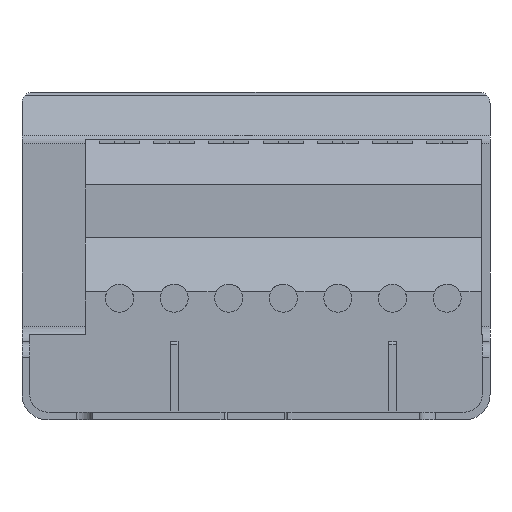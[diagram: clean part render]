
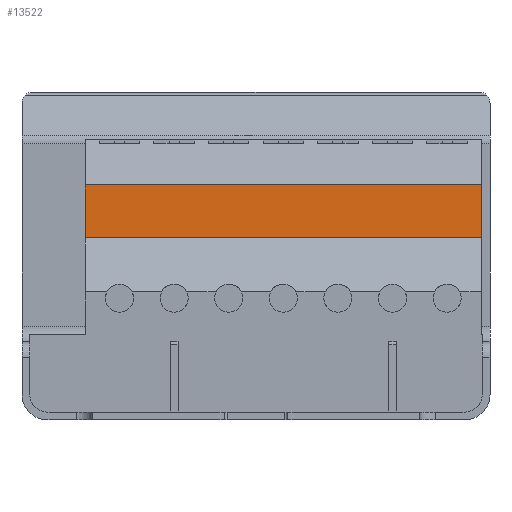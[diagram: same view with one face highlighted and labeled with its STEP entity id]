
A CAD part, front view. The second image highlights one B-rep face of the part: STEP entity #13522.
In plain terms, the highlighted planar face has unit normal (0, -1, 0).
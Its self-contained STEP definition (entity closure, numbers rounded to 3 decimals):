
#4977=DIRECTION('',(0.,0.,-1.));
#4978=VECTOR('',#4977,3.395);
#4979=CARTESIAN_POINT('',(-10.95,-195.5,15.055));
#4980=LINE('',#4979,#4978);
#5320=DIRECTION('',(1.,0.,0.));
#5321=VECTOR('',#5320,25.4);
#5322=CARTESIAN_POINT('',(-10.95,-195.5,11.66));
#5323=LINE('',#5322,#5321);
#5444=DIRECTION('',(1.,0.,0.));
#5445=VECTOR('',#5444,25.4);
#5446=CARTESIAN_POINT('',(-10.95,-195.5,15.055));
#5447=LINE('',#5446,#5445);
#5472=DIRECTION('',(0.,0.,-1.));
#5473=VECTOR('',#5472,3.395);
#5474=CARTESIAN_POINT('',(14.45,-195.5,15.055));
#5475=LINE('',#5474,#5473);
#8254=CARTESIAN_POINT('',(-10.95,-195.5,15.055));
#8255=VERTEX_POINT('',#8254);
#8256=CARTESIAN_POINT('',(-10.95,-195.5,11.66));
#8257=VERTEX_POINT('',#8256);
#8266=CARTESIAN_POINT('',(14.45,-195.5,15.055));
#8267=VERTEX_POINT('',#8266);
#8268=CARTESIAN_POINT('',(14.45,-195.5,11.66));
#8269=VERTEX_POINT('',#8268);
#13509=CARTESIAN_POINT('',(-10.95,-195.5,15.055));
#13510=DIRECTION('',(0.,-1.,0.));
#13511=DIRECTION('',(0.,0.,-1.));
#13512=AXIS2_PLACEMENT_3D('',#13509,#13510,#13511);
#13513=PLANE('',#13512);
#13514=ORIENTED_EDGE('',*,*,#13258,.F.);
#13516=ORIENTED_EDGE('',*,*,#13515,.T.);
#13518=ORIENTED_EDGE('',*,*,#13517,.T.);
#13519=ORIENTED_EDGE('',*,*,#13457,.F.);
#13520=EDGE_LOOP('',(#13514,#13516,#13518,#13519));
#13521=FACE_OUTER_BOUND('',#13520,.F.);
#13258=EDGE_CURVE('',#8255,#8257,#4980,.T.);
#13457=EDGE_CURVE('',#8257,#8269,#5323,.T.);
#13515=EDGE_CURVE('',#8255,#8267,#5447,.T.);
#13517=EDGE_CURVE('',#8267,#8269,#5475,.T.);
#13522=ADVANCED_FACE('',(#13521),#13513,.T.);
